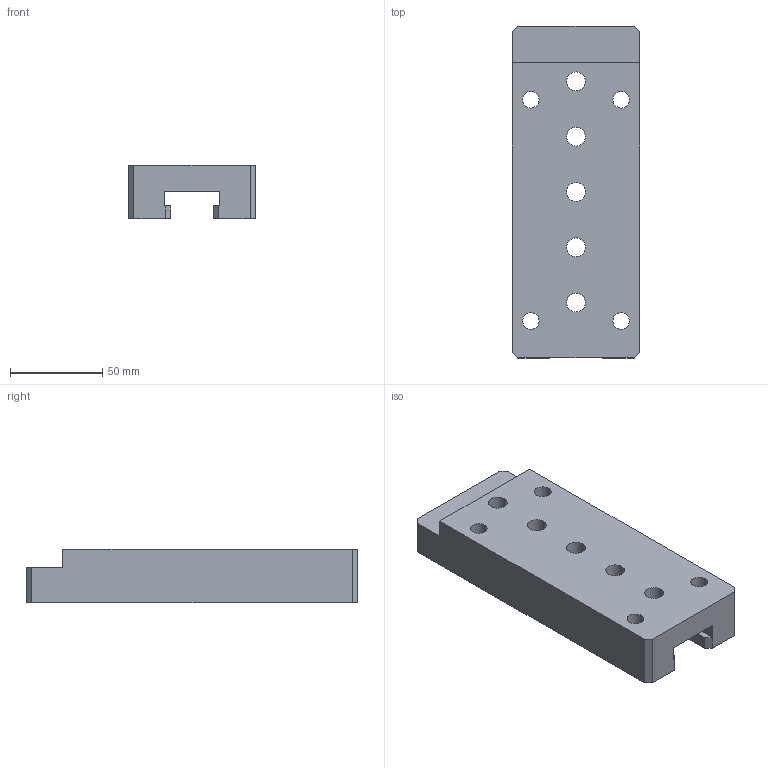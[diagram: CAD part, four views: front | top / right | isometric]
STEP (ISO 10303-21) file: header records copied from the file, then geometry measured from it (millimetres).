
FILE_DESCRIPTION (( 'STEP AP203' ), '1' );
FILE_NAME ('020100000004559.step', '2024-07-03T11:18:19', ( '' ), ( '' ), 'SwSTEP 2.0', 'SolidWorks 2023', '' );
FILE_SCHEMA (( 'CONFIG_CONTROL_DESIGN' ));
Length unit declared in the file: millimetre
Products named in the file (1): 020100000004559
Bounding box: 69 x 180 x 29 mm (x, y, z)
Volume: 256638.8 mm3; surface area: 50518.9 mm2
Topology: 1 solids, 1 shells, 64 faces, 164 edges, 106 vertices
Faces by surface type: plane 28, cylinder 26, cone 10
Entity records: 2063 total; most frequent: DIRECTION 356, CARTESIAN_POINT 335, ORIENTED_EDGE 328, EDGE_CURVE 164, AXIS2_PLACEMENT_3D 127, VERTEX_POINT 106, LINE 102, VECTOR 102
